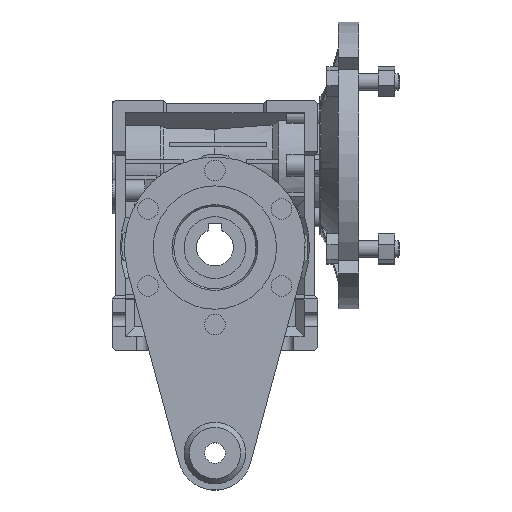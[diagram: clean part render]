
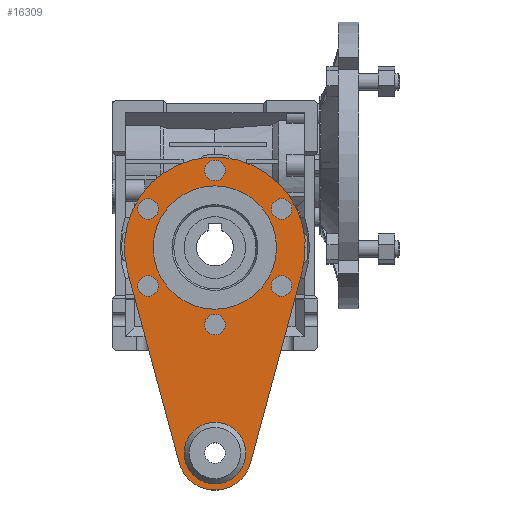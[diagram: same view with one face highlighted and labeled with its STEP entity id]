
A CAD part, top view. The second image highlights one B-rep face of the part: STEP entity #16309.
In plain terms, the highlighted planar face has unit normal (0, 0, 1).
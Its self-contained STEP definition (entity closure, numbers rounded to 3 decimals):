
#968=CIRCLE('',#17711,44.);
#969=CIRCLE('',#17714,30.);
#972=CIRCLE('',#17718,18.);
#973=CIRCLE('',#17720,5.);
#974=CIRCLE('',#17721,5.);
#975=CIRCLE('',#17722,5.);
#976=CIRCLE('',#17723,5.);
#977=CIRCLE('',#17724,5.);
#978=CIRCLE('',#17725,5.);
#979=CIRCLE('',#17726,15.);
#4801=ORIENTED_EDGE('',*,*,#7643,.T.);
#4802=ORIENTED_EDGE('',*,*,#7644,.T.);
#4803=ORIENTED_EDGE('',*,*,#7645,.T.);
#4804=ORIENTED_EDGE('',*,*,#7646,.T.);
#4805=ORIENTED_EDGE('',*,*,#7647,.T.);
#4806=ORIENTED_EDGE('',*,*,#7648,.T.);
#4807=ORIENTED_EDGE('',*,*,#7649,.T.);
#4808=ORIENTED_EDGE('',*,*,#7639,.F.);
#4809=ORIENTED_EDGE('',*,*,#7631,.T.);
#4810=ORIENTED_EDGE('',*,*,#7635,.T.);
#4811=ORIENTED_EDGE('',*,*,#7638,.T.);
#4812=ORIENTED_EDGE('',*,*,#7642,.T.);
#7631=EDGE_CURVE('',#9357,#9356,#10964,.T.);
#7635=EDGE_CURVE('',#9356,#9359,#968,.T.);
#7638=EDGE_CURVE('',#9359,#9361,#10969,.T.);
#7639=EDGE_CURVE('',#9362,#9362,#969,.T.);
#7642=EDGE_CURVE('',#9361,#9357,#972,.T.);
#7643=EDGE_CURVE('',#9364,#9364,#973,.F.);
#7644=EDGE_CURVE('',#9365,#9365,#974,.F.);
#7645=EDGE_CURVE('',#9366,#9366,#975,.F.);
#7646=EDGE_CURVE('',#9367,#9367,#976,.F.);
#7647=EDGE_CURVE('',#9368,#9368,#977,.F.);
#7648=EDGE_CURVE('',#9369,#9369,#978,.F.);
#7649=EDGE_CURVE('',#9370,#9370,#979,.T.);
#9356=VERTEX_POINT('',#26857);
#9357=VERTEX_POINT('',#26859);
#9359=VERTEX_POINT('',#26865);
#9361=VERTEX_POINT('',#26871);
#9362=VERTEX_POINT('',#26875);
#9364=VERTEX_POINT('',#26883);
#9365=VERTEX_POINT('',#26885);
#9366=VERTEX_POINT('',#26887);
#9367=VERTEX_POINT('',#26889);
#9368=VERTEX_POINT('',#26891);
#9369=VERTEX_POINT('',#26893);
#9370=VERTEX_POINT('',#26895);
#10964=LINE('',#26858,#12498);
#10969=LINE('',#26872,#12503);
#12498=VECTOR('',#21648,1000.);
#12503=VECTOR('',#21661,1000.);
#13561=EDGE_LOOP('',(#4801));
#13562=EDGE_LOOP('',(#4802));
#13563=EDGE_LOOP('',(#4803));
#13564=EDGE_LOOP('',(#4804));
#13565=EDGE_LOOP('',(#4805));
#13566=EDGE_LOOP('',(#4806));
#13567=EDGE_LOOP('',(#4807));
#13568=EDGE_LOOP('',(#4808));
#13569=EDGE_LOOP('',(#4809,#4810,#4811,#4812));
#14660=FACE_BOUND('',#13561,.T.);
#14661=FACE_BOUND('',#13562,.T.);
#14662=FACE_BOUND('',#13563,.T.);
#14663=FACE_BOUND('',#13564,.T.);
#14664=FACE_BOUND('',#13565,.T.);
#14665=FACE_BOUND('',#13566,.T.);
#14666=FACE_BOUND('',#13567,.T.);
#14667=FACE_BOUND('',#13568,.T.);
#14668=FACE_BOUND('',#13569,.T.);
#15465=PLANE('',#17719);
#16309=ADVANCED_FACE('',(#14660,#14661,#14662,#14663,#14664,#14665,#14666,
#14667,#14668),#15465,.T.);
#17711=AXIS2_PLACEMENT_3D('',#26866,#21655,#21656);
#17714=AXIS2_PLACEMENT_3D('',#26874,#21664,#21665);
#17718=AXIS2_PLACEMENT_3D('',#26880,#21672,#21673);
#17719=AXIS2_PLACEMENT_3D('',#26881,#21674,#21675);
#17720=AXIS2_PLACEMENT_3D('',#26882,#21676,#21677);
#17721=AXIS2_PLACEMENT_3D('',#26884,#21678,#21679);
#17722=AXIS2_PLACEMENT_3D('',#26886,#21680,#21681);
#17723=AXIS2_PLACEMENT_3D('',#26888,#21682,#21683);
#17724=AXIS2_PLACEMENT_3D('',#26890,#21684,#21685);
#17725=AXIS2_PLACEMENT_3D('',#26892,#21686,#21687);
#17726=AXIS2_PLACEMENT_3D('',#26894,#21688,#21689);
#21648=DIRECTION('',(0.26,0.966,0.));
#21655=DIRECTION('',(0.,0.,1.));
#21656=DIRECTION('',(1.,0.,0.));
#21661=DIRECTION('',(0.26,-0.966,0.));
#21664=DIRECTION('',(0.,0.,1.));
#21665=DIRECTION('',(1.,0.,0.));
#21672=DIRECTION('',(0.,0.,1.));
#21673=DIRECTION('',(1.,0.,0.));
#21674=DIRECTION('',(0.,0.,1.));
#21675=DIRECTION('',(1.,0.,0.));
#21676=DIRECTION('',(0.,0.,1.));
#21677=DIRECTION('',(1.,0.,0.));
#21678=DIRECTION('',(0.,0.,1.));
#21679=DIRECTION('',(1.,0.,0.));
#21680=DIRECTION('',(0.,0.,1.));
#21681=DIRECTION('',(1.,0.,0.));
#21682=DIRECTION('',(0.,0.,1.));
#21683=DIRECTION('',(1.,0.,0.));
#21684=DIRECTION('',(0.,0.,1.));
#21685=DIRECTION('',(1.,0.,0.));
#21686=DIRECTION('',(0.,0.,1.));
#21687=DIRECTION('',(1.,0.,0.));
#21688=DIRECTION('',(0.,0.,-1.));
#21689=DIRECTION('',(-1.,0.,0.));
#26857=CARTESIAN_POINT('',(42.487,-11.44,2.));
#26858=CARTESIAN_POINT('',(17.381,-104.68,2.));
#26859=CARTESIAN_POINT('',(17.381,-104.68,2.));
#26865=CARTESIAN_POINT('',(-42.487,-11.44,2.));
#26866=CARTESIAN_POINT('',(0.,0.,2.));
#26871=CARTESIAN_POINT('',(-17.381,-104.68,2.));
#26872=CARTESIAN_POINT('',(-42.487,-11.44,2.));
#26874=CARTESIAN_POINT('',(0.,0.,2.));
#26875=CARTESIAN_POINT('',(30.,0.,2.));
#26880=CARTESIAN_POINT('',(0.,-100.,2.));
#26881=CARTESIAN_POINT('',(0.,0.,2.));
#26882=CARTESIAN_POINT('',(32.476,18.75,2.));
#26883=CARTESIAN_POINT('',(37.476,18.75,2.));
#26884=CARTESIAN_POINT('',(32.476,-18.75,2.));
#26885=CARTESIAN_POINT('',(37.476,-18.75,2.));
#26886=CARTESIAN_POINT('',(0.,-37.5,2.));
#26887=CARTESIAN_POINT('',(5.,-37.5,2.));
#26888=CARTESIAN_POINT('',(-32.476,-18.75,2.));
#26889=CARTESIAN_POINT('',(-27.476,-18.75,2.));
#26890=CARTESIAN_POINT('',(-32.476,18.75,2.));
#26891=CARTESIAN_POINT('',(-27.476,18.75,2.));
#26892=CARTESIAN_POINT('',(0.,37.5,2.));
#26893=CARTESIAN_POINT('',(5.,37.5,2.));
#26894=CARTESIAN_POINT('',(0.,-100.,2.));
#26895=CARTESIAN_POINT('',(-15.,-100.,2.));
